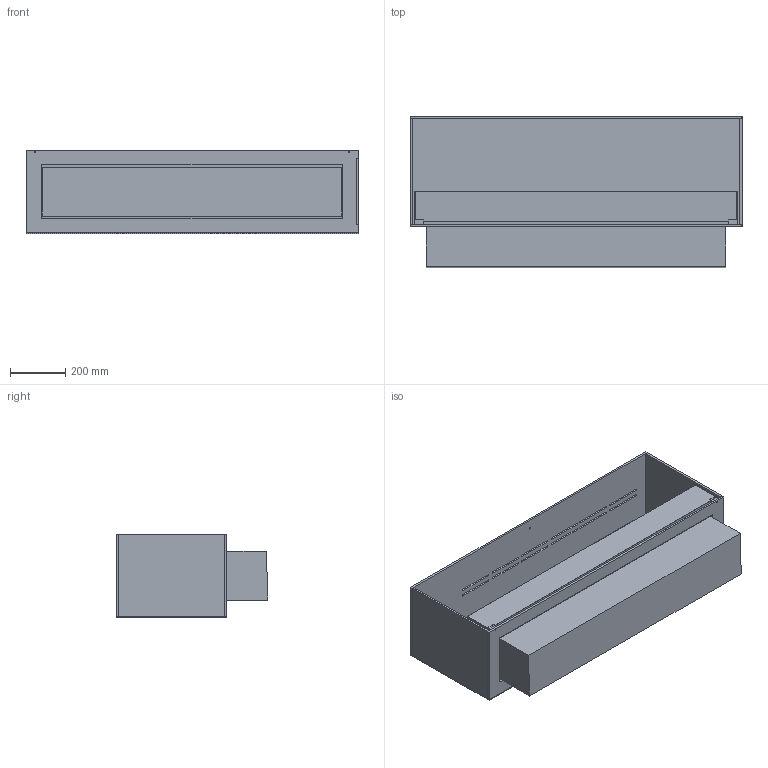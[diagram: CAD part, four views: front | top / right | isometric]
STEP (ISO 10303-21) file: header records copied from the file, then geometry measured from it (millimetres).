
FILE_DESCRIPTION (( 'STEP AP203' ), '1' );
FILE_NAME ('Montreal open front 1200 F3.STEP', '2024-03-13T10:43:42', ( '' ), ( '' ), 'SwSTEP 2.0', 'SolidWorks 2023', '' );
FILE_SCHEMA (( 'CONFIG_CONTROL_DESIGN' ));
Length unit declared in the file: millimetre
Products named in the file (9): Glas holder flad med sider 10mm; 8mm alu Bund - P&G -1120SIShowroom -look book; Denver F6_uden glas; Montreal open front 1200 F3; 8mm alu Top - P&G -1120SIShowroom -look book; Part3^P&G -1120SI Montreal Single AUTOShowroom -look book; 8mm alu Side - P&G -1120SIShowroom -look book_Glass; Part1^P&G -1120SI Montreal Single AUTOShowroom -look book; 3mm alu Bag - P&G -1120SIShowroom -look book
Assembly tree (9 placements, depth 2):
  Montreal open front 1200 F3
    8mm alu Top - P&G -1120SIShowroom -look book
    8mm alu Bund - P&G -1120SIShowroom -look book
    8mm alu Side - P&G -1120SIShowroom -look book_Glass  x2
    3mm alu Bag - P&G -1120SIShowroom -look book
    Glas holder flad med sider 10mm  x2
    Part1^P&G -1120SI Montreal Single AUTOShowroom -look book
    Denver F6_uden glas
  Part3^P&G -1120SI Montreal Single AUTOShowroom -look book
Bounding box: 1200 x 548 x 300 mm (x, y, z)
Volume: 38740736 mm3; surface area: 4089854.3 mm2
Topology: 13 solids, 13 shells, 256 faces, 684 edges, 456 vertices
Faces by surface type: plane 172, cylinder 84
Entity records: 8376 total; most frequent: CARTESIAN_POINT 1295, DIRECTION 1276, ORIENTED_EDGE 1260, EDGE_CURVE 630, VECTOR 474, LINE 474, VERTEX_POINT 420, AXIS2_PLACEMENT_3D 401
